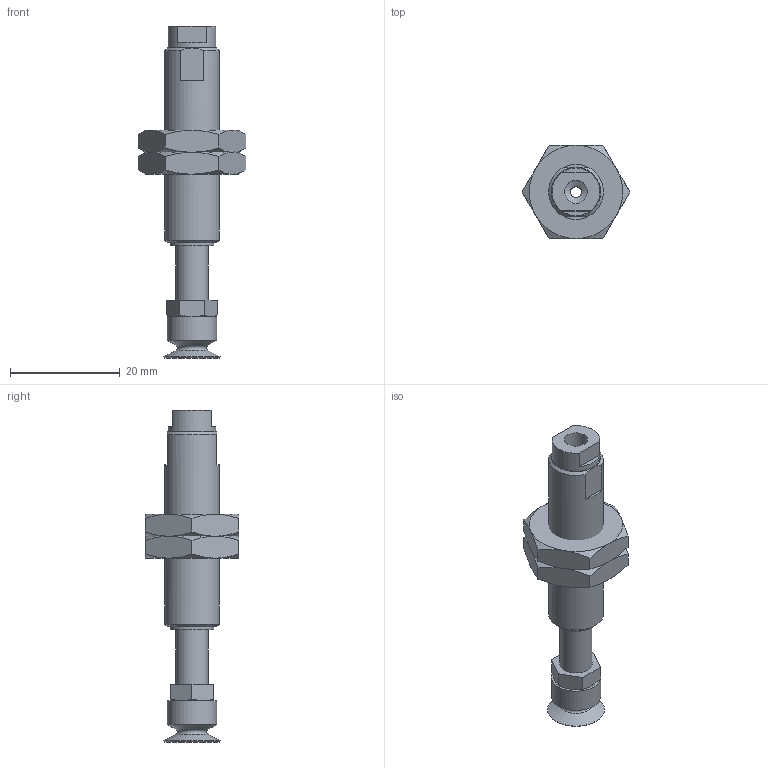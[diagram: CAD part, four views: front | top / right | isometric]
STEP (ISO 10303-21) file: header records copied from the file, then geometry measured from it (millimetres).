
FILE_DESCRIPTION(('STEP AP203'),'1');
FILE_NAME('-LB.stp','2025-03-28T07:24:40',(' '),(' '),'Spatial InterOp 3D',' ',' ');
FILE_SCHEMA(('CONFIG_CONTROL_DESIGN'));
Length unit declared in the file: millimetre
Products named in the file (8): BNAPFTH-10A-10-※-LB; __; BODY; NUT; TN-PS-10-M5; Setting screws-TN-PS-10-M5; BPAG-10A-※
Assembly tree (7 placements, depth 3):
  BNAPFTH-10A-10-※-LB
    __
    BODY
    NUT
    NUT
    TN-PS-10-M5
      Setting screws-TN-PS-10-M5
    BPAG-10A-※
Bounding box: 19.63 x 17 x 60.5 mm (x, y, z)
Volume: 5039.8 mm3; surface area: 4346.8 mm2
Topology: 6 solids, 6 shells, 158 faces, 314 edges, 192 vertices
Faces by surface type: plane 74, cone 41, cylinder 34, torus 9
Full cylindrical faces by diameter (mm): 0.9 x16, 2 x3, 3.9 x1, 4 x2, 4.2 x2, 5 x1, 6 x3, 8 x1, 8.7 x1, 9 x3, 10 x1
Entity records: 4254 total; most frequent: CARTESIAN_POINT 837, DIRECTION 652, ORIENTED_EDGE 508, AXIS2_PLACEMENT_3D 295, EDGE_CURVE 254, EDGE_LOOP 246, FACE_OUTER_BOUND 201, VERTEX_POINT 184
